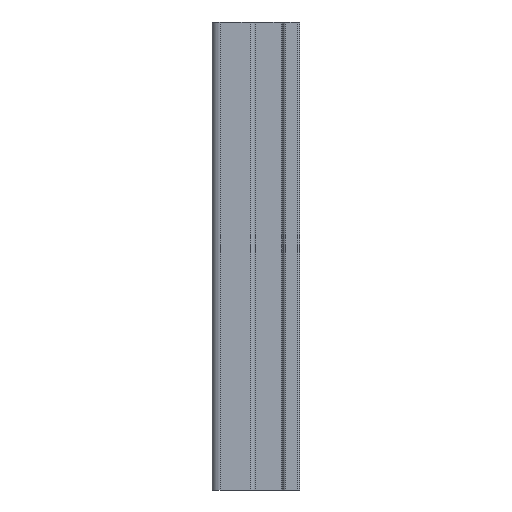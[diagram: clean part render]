
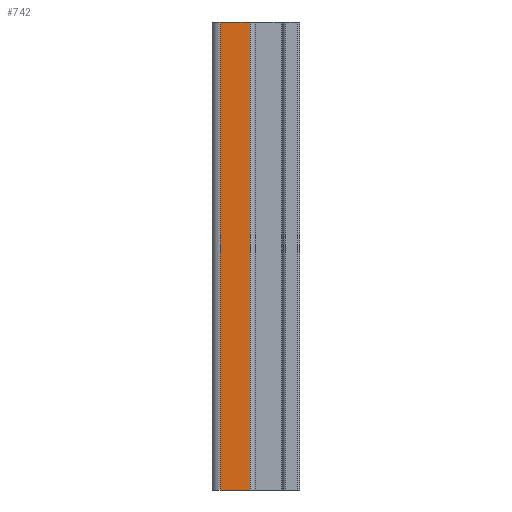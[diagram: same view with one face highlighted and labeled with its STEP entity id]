
A CAD part, front view. The second image highlights one B-rep face of the part: STEP entity #742.
In plain terms, the highlighted planar face has unit normal (0, -1, 0).
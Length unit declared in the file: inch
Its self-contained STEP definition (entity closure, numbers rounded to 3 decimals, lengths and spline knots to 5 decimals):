
#377 = VECTOR ( 'NONE', #1133, 39.37008 ) ;
#380 = LINE ( 'NONE', #8394, #8536 ) ;
#742 = ADVANCED_FACE ( 'NONE', ( #7258 ), #11324, .T. ) ;
#1090 = CARTESIAN_POINT ( 'NONE',  ( 0.326, -1.7349, 0. ) ) ;
#1130 = VERTEX_POINT ( 'NONE', #1090 ) ;
#1133 = DIRECTION ( 'NONE',  ( 0., 0., 1. ) ) ;
#1790 = ORIENTED_EDGE ( 'NONE', *, *, #9736, .F. ) ;
#2034 = LINE ( 'NONE', #4914, #6199 ) ;
#3204 = CARTESIAN_POINT ( 'NONE',  ( 0.326, -1.7349, -4. ) ) ;
#3707 = EDGE_CURVE ( 'NONE', #12765, #12950, #2034, .T. ) ;
#4914 = CARTESIAN_POINT ( 'NONE',  ( 0.07, -1.7349, -4. ) ) ;
#5133 = ORIENTED_EDGE ( 'NONE', *, *, #11968, .T. ) ;
#6199 = VECTOR ( 'NONE', #11857, 39.37008 ) ;
#6856 = CARTESIAN_POINT ( 'NONE',  ( 0.07, -1.7349, 0. ) ) ;
#7258 = FACE_OUTER_BOUND ( 'NONE', #10166, .T. ) ;
#7333 = CARTESIAN_POINT ( 'NONE',  ( 0.07, -1.7349, -4. ) ) ;
#8394 = CARTESIAN_POINT ( 'NONE',  ( 0.07, -1.7349, 0. ) ) ;
#8448 = DIRECTION ( 'NONE',  ( 0., -1., 0. ) ) ;
#8488 = ORIENTED_EDGE ( 'NONE', *, *, #9086, .F. ) ;
#8536 = VECTOR ( 'NONE', #9500, 39.37008 ) ;
#8595 = CARTESIAN_POINT ( 'NONE',  ( 0.326, -1.7349, -4. ) ) ;
#8948 = CARTESIAN_POINT ( 'NONE',  ( 0.07, -1.7349, -4. ) ) ;
#9023 = LINE ( 'NONE', #8948, #377 ) ;
#9086 = EDGE_CURVE ( 'NONE', #12298, #1130, #380, .T. ) ;
#9500 = DIRECTION ( 'NONE',  ( 1., 0., 0. ) ) ;
#9653 = VECTOR ( 'NONE', #10139, 39.37008 ) ;
#9736 = EDGE_CURVE ( 'NONE', #12765, #12298, #9023, .T. ) ;
#9793 = CARTESIAN_POINT ( 'NONE',  ( 0.07, -1.7349, -4. ) ) ;
#10139 = DIRECTION ( 'NONE',  ( 0., 0., 1. ) ) ;
#10166 = EDGE_LOOP ( 'NONE', ( #8488, #1790, #12213, #5133 ) ) ;
#11074 = AXIS2_PLACEMENT_3D ( 'NONE', #7333, #8448, #12300 ) ;
#11324 = PLANE ( 'NONE',  #11074 ) ;
#11857 = DIRECTION ( 'NONE',  ( 1., 0., 0. ) ) ;
#11968 = EDGE_CURVE ( 'NONE', #12950, #1130, #12297, .T. ) ;
#12213 = ORIENTED_EDGE ( 'NONE', *, *, #3707, .T. ) ;
#12297 = LINE ( 'NONE', #3204, #9653 ) ;
#12298 = VERTEX_POINT ( 'NONE', #6856 ) ;
#12300 = DIRECTION ( 'NONE',  ( 0., 0., -1. ) ) ;
#12765 = VERTEX_POINT ( 'NONE', #9793 ) ;
#12950 = VERTEX_POINT ( 'NONE', #8595 ) ;
